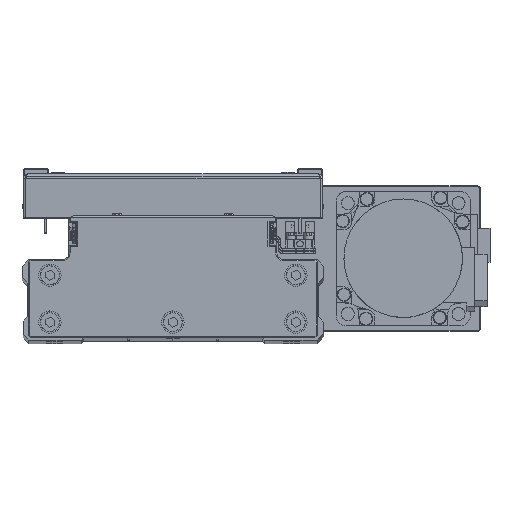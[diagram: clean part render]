
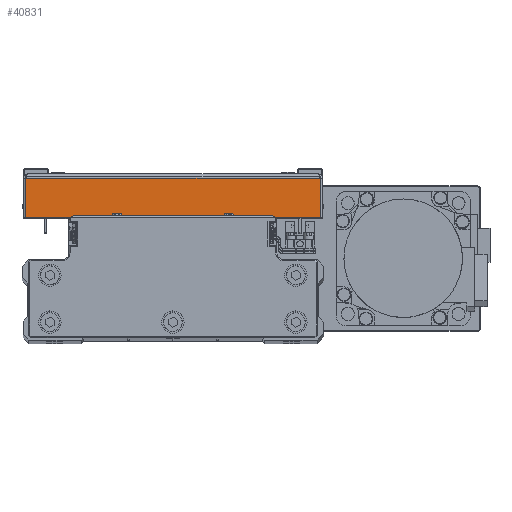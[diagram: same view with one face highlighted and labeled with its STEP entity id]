
A CAD part, top view. The second image highlights one B-rep face of the part: STEP entity #40831.
In plain terms, the highlighted planar face has unit normal (0, 0, 1) as drawn and (1, 0, 0) by its records, which use the part's own axes.
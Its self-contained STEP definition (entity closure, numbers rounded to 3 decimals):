
#1305 = CARTESIAN_POINT ( 'NONE',  ( 100., 0., 65.929 ) ) ;
#2049 = LINE ( 'NONE', #15713, #9709 ) ;
#4388 = EDGE_CURVE ( 'NONE', #40073, #14996, #6815, .T. ) ;
#5032 = VECTOR ( 'NONE', #14974, 1000. ) ;
#5526 = VERTEX_POINT ( 'NONE', #43078 ) ;
#6815 = LINE ( 'NONE', #20455, #9002 ) ;
#8136 = CARTESIAN_POINT ( 'NONE',  ( 100., 0., 0. ) ) ;
#8662 = CARTESIAN_POINT ( 'NONE',  ( 100., 1., 67. ) ) ;
#9002 = VECTOR ( 'NONE', #34116, 1000. ) ;
#9249 = EDGE_CURVE ( 'NONE', #14996, #5526, #2049, .T. ) ;
#9709 = VECTOR ( 'NONE', #29377, 1000. ) ;
#10640 = CARTESIAN_POINT ( 'NONE',  ( 100., 1., 65.929 ) ) ;
#12378 = AXIS2_PLACEMENT_3D ( 'NONE', #8136, #21761, #35436 ) ;
#14974 = DIRECTION ( 'NONE',  ( 0., 1., 0. ) ) ;
#14996 = VERTEX_POINT ( 'NONE', #29503 ) ;
#15713 = CARTESIAN_POINT ( 'NONE',  ( 100., 18.5, 0. ) ) ;
#19187 = CARTESIAN_POINT ( 'NONE',  ( 100., 1., -65.929 ) ) ;
#20455 = CARTESIAN_POINT ( 'NONE',  ( 100., 0., -65.929 ) ) ;
#21761 = DIRECTION ( 'NONE',  ( -1., 0., 0. ) ) ;
#22288 = DIRECTION ( 'NONE',  ( 0., 0., 1. ) ) ;
#23750 = ORIENTED_EDGE ( 'NONE', *, *, #37449, .F. ) ;
#23898 = EDGE_LOOP ( 'NONE', ( #39239, #27679, #26827, #23750 ) ) ;
#25128 = FACE_OUTER_BOUND ( 'NONE', #23898, .T. ) ;
#26827 = ORIENTED_EDGE ( 'NONE', *, *, #9249, .T. ) ;
#27679 = ORIENTED_EDGE ( 'NONE', *, *, #4388, .T. ) ;
#29377 = DIRECTION ( 'NONE',  ( 0., 0., 1. ) ) ;
#29503 = CARTESIAN_POINT ( 'NONE',  ( 100., 18.5, -65.929 ) ) ;
#32000 = LINE ( 'NONE', #1305, #5032 ) ;
#32418 = VECTOR ( 'NONE', #22288, 1000. ) ;
#33582 = EDGE_CURVE ( 'NONE', #40073, #38946, #39291, .T. ) ;
#34116 = DIRECTION ( 'NONE',  ( 0., 1., 0. ) ) ;
#35436 = DIRECTION ( 'NONE',  ( 0., -1., 0. ) ) ;
#37449 = EDGE_CURVE ( 'NONE', #38946, #5526, #32000, .T. ) ;
#38774 = PLANE ( 'NONE',  #12378 ) ;
#38946 = VERTEX_POINT ( 'NONE', #10640 ) ;
#39239 = ORIENTED_EDGE ( 'NONE', *, *, #33582, .F. ) ;
#39291 = LINE ( 'NONE', #8662, #32418 ) ;
#40073 = VERTEX_POINT ( 'NONE', #19187 ) ;
#40831 = ADVANCED_FACE ( 'NONE', ( #25128 ), #38774, .F. ) ;
#43078 = CARTESIAN_POINT ( 'NONE',  ( 100., 18.5, 65.929 ) ) ;
